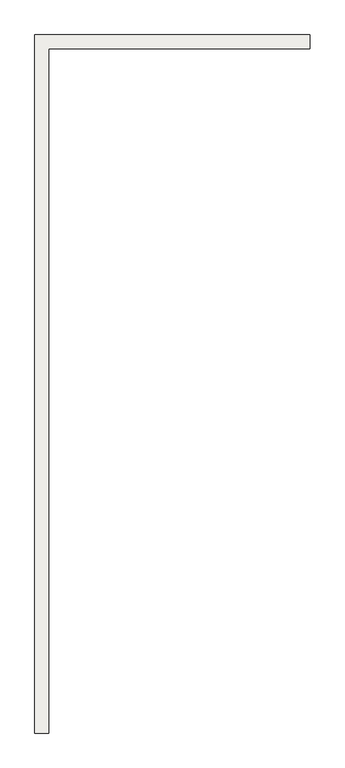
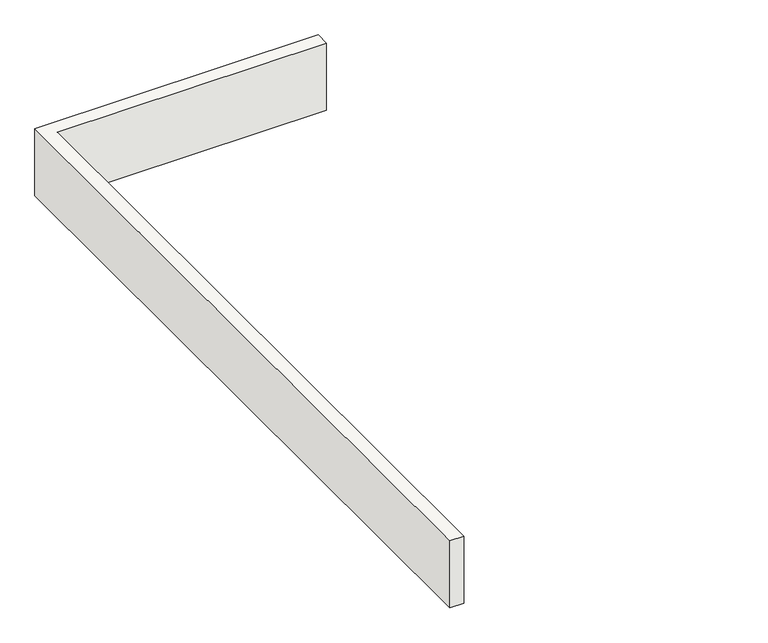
"""IFC4 building model written with IfcOpenShell, lengths in millimetres: roof geometry, banqueton : banqueton."""

from ifc_helpers import new_model, si_unit, origin, origin_with_axes, place, context, project, spatial, polyline, outline, extrude, source, transform, mapped, element, save


def roof_bbefa7aa(model_context):
    return source(origin(), model_context, "Body", "SweptSolid", [
        extrude(outline(polyline([(36825.8300226, 29694.010184), (36825.8300226, 29664.010184), (36255.8300226, 29664.010184), (36255.8300226, 28172.0432167), (36225.8300226, 28172.0432167), (36225.8300226, 29694.010184), (36825.8300226, 29694.010184)])), origin_with_axes(), (0.0, 0.0, 1.0), 150.0),
    ])


if __name__ == "__main__":
    model = new_model("IFC4")
    model_context = context("Model", 3, world=origin())
    ifc_project = project(units=[si_unit("LENGTHUNIT", "METRE", prefix="MILLI")], contexts=[model_context])
    site = spatial("IfcSite", under=ifc_project)
    building = spatial("IfcBuilding", under=site)
    placement = place(None, origin())
    roof_shape = roof_bbefa7aa(model_context)
    element("IfcRoof", 1, ObjectType="banqueton : banqueton", at=placement, inside=building, context=model_context, shape_type="MappedRepresentation", body=[
        mapped(roof_shape, transform((0.0, 0.0, 0.0), x_axis=(1.0, 0.0, 0.0), y_axis=(0.0, 1.0, 0.0), z_axis=(0.0, 0.0, 1.0))),
    ])
    save(model, "model.ifc")
